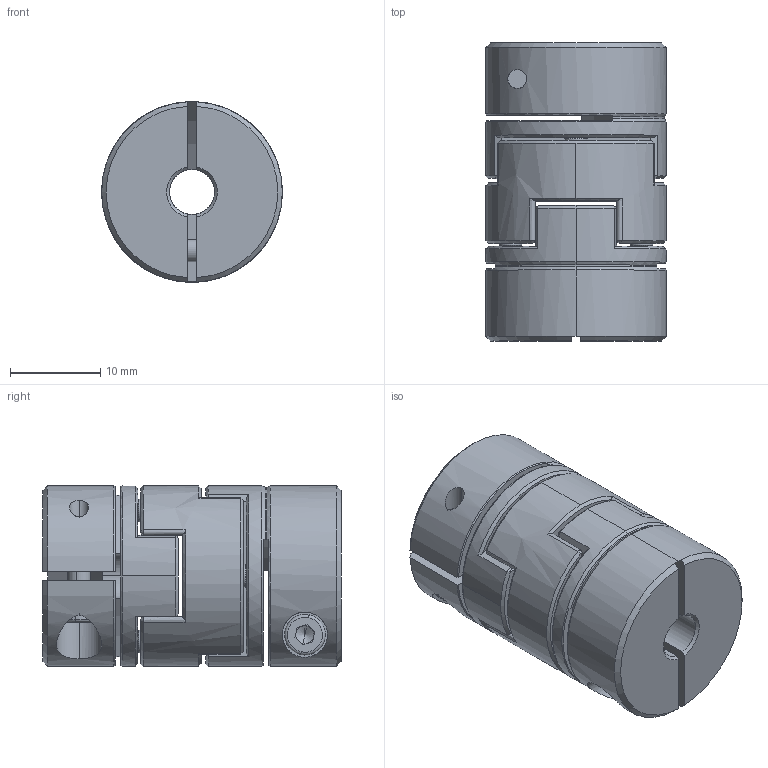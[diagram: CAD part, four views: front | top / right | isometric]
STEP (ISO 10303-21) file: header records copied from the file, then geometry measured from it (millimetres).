
FILE_DESCRIPTION (( 'STEP AP203' ), '1' );
FILE_NAME ('LZ-B-D20L33-5-5.STEP', '2021-10-29T05:35:01', ( '' ), ( '' ), 'SwSTEP 2.0', 'SolidWorks 2018', '' );
FILE_SCHEMA (( 'CONFIG_CONTROL_DESIGN' ));
Length unit declared in the file: millimetre
Products named in the file (1): LZ-B-D20L33-5-5
Bounding box: 20 x 33 x 20 mm (x, y, z)
Volume: 8806.6 mm3; surface area: 6106.2 mm2
Topology: 3 solids, 3 shells, 248 faces, 632 edges, 400 vertices
Faces by surface type: plane 112, cylinder 64, cone 42, bspline 26, torus 4
Entity records: 10263 total; most frequent: CARTESIAN_POINT 4455, ORIENTED_EDGE 1256, DIRECTION 1116, EDGE_CURVE 628, AXIS2_PLACEMENT_3D 431, VERTEX_POINT 400, EDGE_LOOP 276, VECTOR 254
